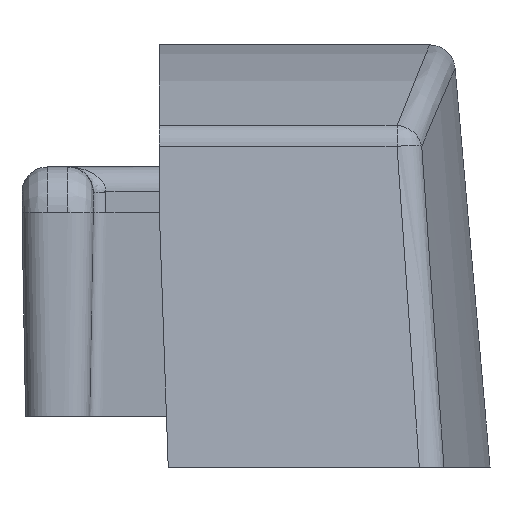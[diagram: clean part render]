
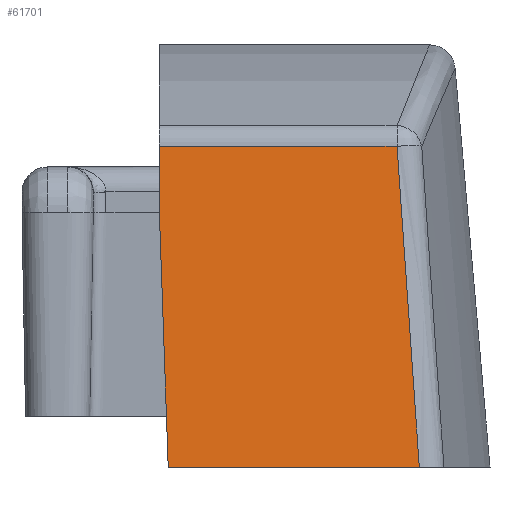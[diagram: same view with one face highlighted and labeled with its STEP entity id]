
A CAD part, left-side view. The second image highlights one B-rep face of the part: STEP entity #61701.
In plain terms, the highlighted planar face has unit normal (-0.996, 0, 0.087).
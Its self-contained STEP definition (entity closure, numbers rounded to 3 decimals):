
#18401=CARTESIAN_POINT(' ',(-20.,-5.11,0.1));
#18402=VERTEX_POINT(' ',#18401);
#18416=CARTESIAN_POINT(' ',(-20.,-5.11,0.1));
#18421=DIRECTION(' ',(0.,1.,0.));
#18426=VECTOR(' ',#18421,1.);
#18431=LINE('',#18416,#18426);
#18436=CARTESIAN_POINT(' ',(-20.,-0.175,0.1));
#18437=VERTEX_POINT(' ',#18436);
#18441=EDGE_CURVE(' ',#18402,#18437,#18431,.T.);
#57281=CARTESIAN_POINT(' ',(-19.448,0.,6.408));
#57286=DIRECTION(' ',(-0.087,0.,-0.996));
#57291=VECTOR(' ',#57286,1.);
#57296=LINE('',#57281,#57291);
#57301=CARTESIAN_POINT(' ',(-19.448,0.,6.408));
#57302=VERTEX_POINT(' ',#57301);
#57306=CARTESIAN_POINT(' ',(-19.563,0.,5.1));
#57307=VERTEX_POINT(' ',#57306);
#57311=EDGE_CURVE(' ',#57302,#57307,#57296,.T.);
#61421=CARTESIAN_POINT(' ',(-19.448,-4.672,6.408));
#61422=VERTEX_POINT(' ',#61421);
#61436=CARTESIAN_POINT(' ',(-20.,-5.11,0.1));
#61441=DIRECTION(' ',(0.087,0.069,0.994));
#61446=VECTOR(' ',#61441,1.);
#61451=LINE('',#61436,#61446);
#61456=EDGE_CURVE(' ',#18402,#61422,#61451,.T.);
#61591=DIRECTION(' ',(-0.996,0.,0.087));
#61596=CARTESIAN_POINT(' ',(-20.,-5.11,0.1));
#61601=DIRECTION(' ',(0.087,0.,0.996));
#61606=AXIS2_PLACEMENT_3D(' ',#61596,#61591,#61601);
#61611=PLANE('',#61606);
#61616=ORIENTED_EDGE(' ',*,*,#61456,.T.);
#61621=CARTESIAN_POINT(' ',(-19.448,-4.672,6.408));
#61626=DIRECTION(' ',(0.,1.,0.));
#61631=VECTOR(' ',#61626,1.);
#61636=LINE('',#61621,#61631);
#61641=EDGE_CURVE(' ',#61422,#57302,#61636,.T.);
#61646=ORIENTED_EDGE(' ',*,*,#61641,.T.);
#61651=ORIENTED_EDGE(' ',*,*,#57311,.T.);
#61656=CARTESIAN_POINT(' ',(-19.563,0.,5.1));
#61661=DIRECTION(' ',(-0.087,-0.035,-0.996));
#61666=VECTOR(' ',#61661,1.);
#61671=LINE('',#61656,#61666);
#61676=EDGE_CURVE(' ',#57307,#18437,#61671,.T.);
#61681=ORIENTED_EDGE(' ',*,*,#61676,.T.);
#61686=ORIENTED_EDGE(' ',*,*,#18441,.F.);
#61691=EDGE_LOOP(' ',(#61616,#61646,#61651,#61681,#61686));
#61696=FACE_OUTER_BOUND(' ',#61691,.T.);
#61701=ADVANCED_FACE('',(#61696),#61611,.T.);
